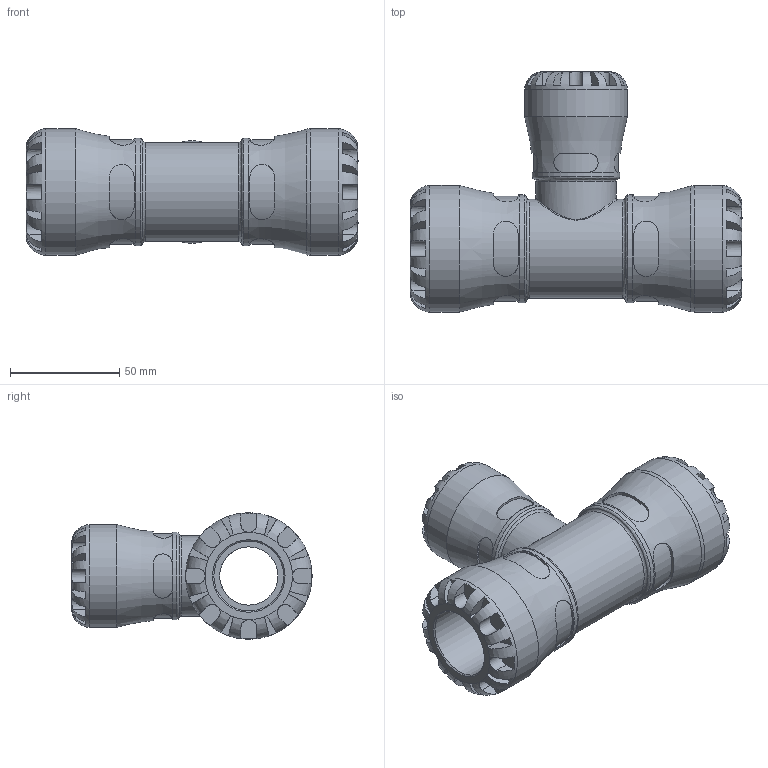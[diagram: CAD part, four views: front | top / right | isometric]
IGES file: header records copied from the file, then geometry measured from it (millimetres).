
Global section: file name: 103400032025_193400032025.ipt; native system: Autodesk Inventor 2015; preprocessor: unknown; author: KIM; date: 20170122.114058; units: millimetre
Bounding box: 152 x 110 x 58 mm (x, y, z)
Volume: 248747.8 mm3; surface area: 60257.7 mm2
Topology: 1 solids, 1 shells, 287 faces, 749 edges, 477 vertices
Faces by surface type: plane 174, revolution 68, cylinder 44, bspline 1
Full cylindrical faces by diameter (mm): 36.66 x1, 39.95 x1, 45.24 x1, 47 x1, 49.3 x2, 58 x2
